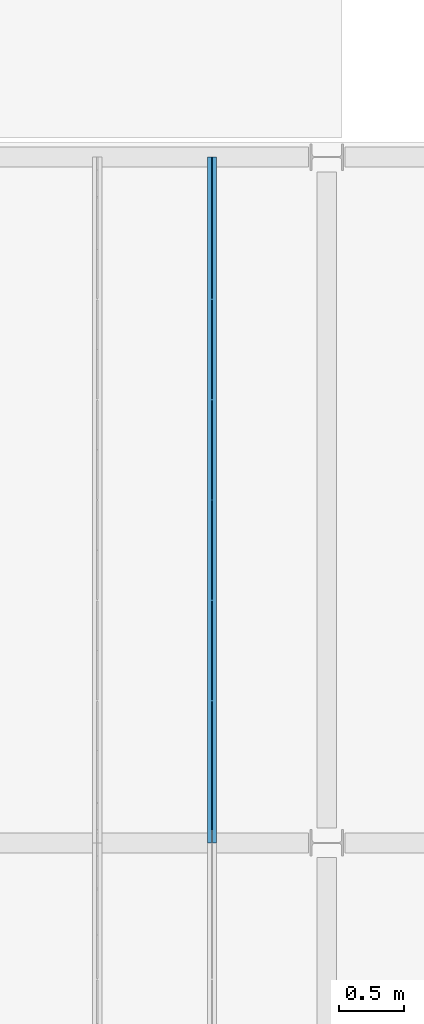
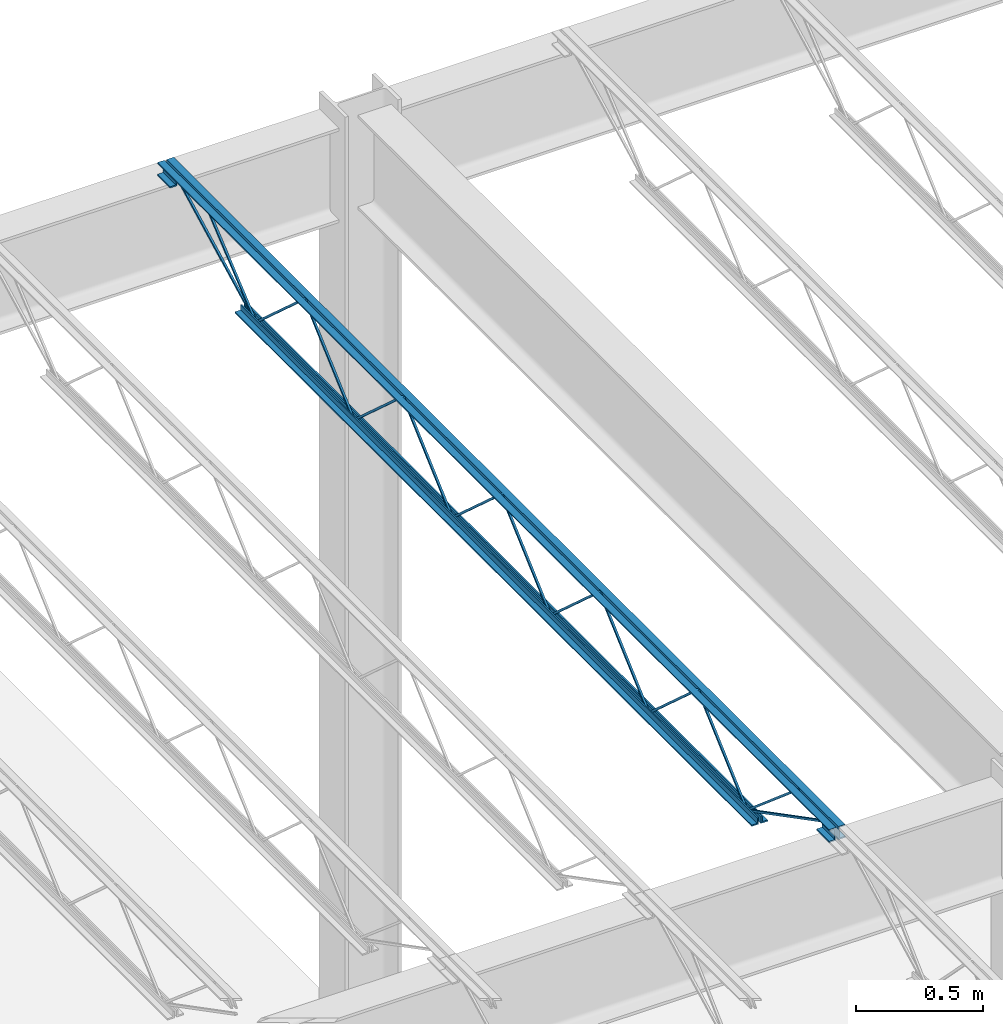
# One storey, part 94 of 119: 1 beam.
"""IFC2X3 building model written with IfcOpenShell, lengths in metres."""

from ifc_helpers import new_model, entity, si_unit, converted_unit, frame, origin, place, context, project, spatial, face_set, surface_model, element, save


model = new_model("IFC2X3")

# Units and contexts
model_context = context("Model", 3, precision=1e-09, world=origin())
plan_context = context("Plan", 3, precision=1e-09, world=origin())
ifc_project = project(units=[si_unit("LENGTHUNIT", "METRE"), si_unit("AREAUNIT", "SQUARE_METRE"), si_unit("VOLUMEUNIT", "CUBIC_METRE"), converted_unit("PLANEANGLEUNIT", "DEGREE", entity("IfcRatioMeasure", 0.01745329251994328), si_unit("PLANEANGLEUNIT", "RADIAN"), dimensions=[0, 0, 0, 0, 0, 0, 0]), si_unit("TIMEUNIT", "SECOND")], contexts=[model_context, plan_context])

# Site, building, storey
site_placement = place(None, origin())
site = spatial("IfcSite", under=ifc_project, at=site_placement, Name="Default", CompositionType="ELEMENT")
building_placement = place(site_placement, origin())
building = spatial("IfcBuilding", under=site, at=building_placement, CompositionType="ELEMENT")
storey_placement = place(building_placement, frame((0.0, 0.0, 4.570000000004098)))
storey = spatial("IfcBuildingStorey", under=building, at=storey_placement, Name="Second Floor", CompositionType="ELEMENT", Elevation=4.570000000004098)

# Beam
beam_placement = place(storey_placement, frame((-27.3655, 44.78049999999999, 4.323999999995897), z_axis=(0.0, 0.0, 1.0), x_axis=(-1.0, 0.0, 0.0)))
element("IfcBeam", 1, at=beam_placement, inside=storey, Name="M_K-Series Bar Joist-Rod Web:14K1:14K1", ObjectType="M_K-Series Bar Joist-Rod Web:14K1", context=model_context, shape_type="SurfaceModel", body=[
    surface_model("IfcFaceBasedSurfaceModel", [(-0.0320000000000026, -2.266000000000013, 0.01110000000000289), (-0.04150000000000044, -2.266000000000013, 0.01110000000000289), (-0.04150000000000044, -2.266000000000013, 0.001600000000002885), (-0.0320000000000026, -2.266000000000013, 0.001600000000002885), (-0.04150000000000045, -2.264645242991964, 0.01110000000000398), (-0.0320000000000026, -2.264645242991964, 0.01110000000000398), (-0.04150000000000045, -2.26100475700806, 0.001600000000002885), (-0.04150000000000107, -1.878854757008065, 0.3449000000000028), (-0.04150000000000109, -1.876145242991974, 0.3449000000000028), (-0.0415000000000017, -1.493995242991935, 0.001600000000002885), (-0.04150000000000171, -1.489000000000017, 0.001600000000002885), (-0.04150000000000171, -1.489000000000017, 0.01110000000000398), (-0.04150000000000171, -1.490354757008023, 0.01110000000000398), (-0.04150000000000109, -1.872504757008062, 0.3544000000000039), (-0.04150000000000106, -1.882495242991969, 0.3544000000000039), (-0.03199999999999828, -2.26100475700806, 0.001600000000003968), (-0.03200000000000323, -1.878854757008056, 0.3449000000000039), (-0.03200000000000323, -1.876145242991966, 0.3449000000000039), (-0.03200000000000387, -1.493995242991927, 0.001600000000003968), (-0.03200000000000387, -1.489000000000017, 0.001600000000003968), (-0.03200000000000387, -1.489000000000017, 0.01110000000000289), (-0.03200000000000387, -1.490354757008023, 0.01110000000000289), (-0.03200000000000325, -1.872504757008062, 0.3544000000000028), (-0.03200000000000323, -1.882495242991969, 0.3544000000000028), (-0.03200000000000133, -3.04300000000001, 0.01110000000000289), (-0.04149999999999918, -3.04300000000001, 0.01110000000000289), (-0.04149999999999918, -3.04300000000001, 0.001600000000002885), (-0.03200000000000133, -3.04300000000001, 0.001600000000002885), (-0.04149999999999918, -3.041645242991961, 0.01110000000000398), (-0.03200000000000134, -3.041645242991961, 0.01110000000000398), (-0.04149999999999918, -3.038004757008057, 0.001600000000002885), (-0.0414999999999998, -2.655854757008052, 0.3449000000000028), (-0.04149999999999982, -2.653145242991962, 0.3449000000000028), (-0.04150000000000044, -2.270995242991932, 0.001600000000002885), (-0.04150000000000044, -2.266000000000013, 0.01110000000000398), (-0.04150000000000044, -2.26735475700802, 0.01110000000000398), (-0.04149999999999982, -2.649504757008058, 0.3544000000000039), (-0.0414999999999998, -2.659495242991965, 0.3544000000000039), (-0.03199999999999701, -3.038004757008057, 0.001600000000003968), (-0.03200000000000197, -2.655854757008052, 0.3449000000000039), (-0.03200000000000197, -2.653145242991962, 0.3449000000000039), (-0.0320000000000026, -2.270995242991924, 0.001600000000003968), (-0.0320000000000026, -2.266000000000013, 0.001600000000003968), (-0.0320000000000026, -2.26735475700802, 0.01110000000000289), (-0.03200000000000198, -2.649504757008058, 0.3544000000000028), (-0.03200000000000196, -2.659495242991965, 0.3544000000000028), (-0.03200000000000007, -3.820000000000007, 0.01110000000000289), (-0.04149999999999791, -3.820000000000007, 0.01110000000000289), (-0.04149999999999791, -3.820000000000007, 0.001600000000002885), (-0.03200000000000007, -3.820000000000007, 0.001600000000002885), (-0.04149999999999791, -3.818645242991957, 0.01110000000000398), (-0.03200000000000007, -3.818645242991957, 0.01110000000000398), (-0.04149999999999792, -3.815004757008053, 0.001600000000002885), (-0.04149999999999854, -3.432854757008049, 0.3449000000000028), (-0.04149999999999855, -3.430145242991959, 0.3449000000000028), (-0.04149999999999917, -3.04799524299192, 0.001600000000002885), (-0.04149999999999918, -3.043000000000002, 0.001600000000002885), (-0.04149999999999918, -3.04300000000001, 0.01110000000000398), (-0.04149999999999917, -3.044354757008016, 0.01110000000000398), (-0.04149999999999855, -3.426504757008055, 0.3544000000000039), (-0.04149999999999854, -3.436495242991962, 0.3544000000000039), (-0.03199999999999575, -3.815004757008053, 0.001600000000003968), (-0.0320000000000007, -3.432854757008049, 0.3449000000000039), (-0.0320000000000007, -3.430145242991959, 0.3449000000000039), (-0.03200000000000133, -3.04799524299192, 0.001600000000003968), (-0.03200000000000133, -3.04300000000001, 0.001600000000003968), (-0.03200000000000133, -3.043000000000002, 0.01110000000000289), (-0.03200000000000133, -3.044354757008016, 0.01110000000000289), (-0.03200000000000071, -3.426504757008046, 0.3544000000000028), (-0.0320000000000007, -3.436495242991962, 0.3544000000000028), (-0.0320000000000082, -1.489000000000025, 0.01109999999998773), (-0.04150000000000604, -1.489000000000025, 0.01109999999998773), (-0.04150000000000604, -1.489000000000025, 0.001599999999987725), (-0.0320000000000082, -1.489000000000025, 0.001599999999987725), (-0.04150000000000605, -1.487645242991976, 0.01109999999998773), (-0.0320000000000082, -1.487645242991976, 0.01109999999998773), (-0.04150000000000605, -1.484004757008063, 0.001599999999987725), (-0.04150000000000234, -1.101854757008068, 0.3448999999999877), (-0.04150000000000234, -1.099145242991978, 0.3448999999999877), (-0.04150000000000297, -0.7169952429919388, 0.001599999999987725), (-0.04150000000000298, -0.7120000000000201, 0.001599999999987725), (-0.04150000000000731, -0.7120000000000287, 0.01109999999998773), (-0.04150000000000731, -0.7133547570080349, 0.01109999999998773), (-0.04150000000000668, -1.095504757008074, 0.3543999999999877), (-0.04150000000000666, -1.10549524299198, 0.3543999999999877), (-0.03200000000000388, -1.484004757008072, 0.001599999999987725), (-0.03200000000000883, -1.101854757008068, 0.3448999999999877), (-0.03200000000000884, -1.099145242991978, 0.3448999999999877), (-0.03200000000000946, -0.7169952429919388, 0.001599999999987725), (-0.03200000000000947, -0.7120000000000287, 0.001599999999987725), (-0.03200000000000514, -0.7120000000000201, 0.01109999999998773), (-0.03200000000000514, -0.7133547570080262, 0.01109999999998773), (-0.03200000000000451, -1.095504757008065, 0.3543999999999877), (-0.0320000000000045, -1.10549524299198, 0.3543999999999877), (-0.03200000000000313, -4.597000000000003, 0.01110000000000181), (-0.04150000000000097, -4.597000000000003, 0.01110000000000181), (-0.04150000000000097, -4.597000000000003, 0.001600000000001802), (-0.03200000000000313, -4.597000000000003, 0.001600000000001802), (-0.04150000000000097, -4.595645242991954, 0.01110000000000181), (-0.03200000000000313, -4.595645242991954, 0.01110000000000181), (-0.04150000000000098, -4.592004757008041, 0.001600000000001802), (-0.04150000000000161, -4.209854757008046, 0.3449000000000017), (-0.04150000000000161, -4.207145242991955, 0.3449000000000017), (-0.0414999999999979, -3.824995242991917, 0.001600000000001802), (-0.04149999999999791, -3.819999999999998, 0.001600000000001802), (-0.04150000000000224, -3.820000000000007, 0.01110000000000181), (-0.04150000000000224, -3.821354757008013, 0.01110000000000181), (-0.04150000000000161, -4.203504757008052, 0.3544000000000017), (-0.0415000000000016, -4.213495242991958, 0.3544000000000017), (-0.03199999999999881, -4.592004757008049, 0.001600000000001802), (-0.03200000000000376, -4.209854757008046, 0.3449000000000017), (-0.03200000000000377, -4.207145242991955, 0.3449000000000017), (-0.03200000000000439, -3.824995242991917, 0.001600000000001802), (-0.0320000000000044, -3.820000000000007, 0.001600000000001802), (-0.03200000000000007, -3.819999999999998, 0.01110000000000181), (-0.03200000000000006, -3.821354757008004, 0.01110000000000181), (-0.03200000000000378, -4.203504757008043, 0.3544000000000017), (-0.03200000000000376, -4.21349524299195, 0.3544000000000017), (-0.0414999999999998, 0.0, 0.3559999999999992), (-0.07350000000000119, 0.0, 0.3559999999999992), (-0.07350000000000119, 0.0, 0.3494999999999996), (-0.04799999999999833, 0.0, 0.3494999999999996), (-0.04799999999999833, 0.0, 0.3239999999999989), (-0.0414999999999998, 0.0, 0.3239999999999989), (-0.03200000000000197, 0.0, 0.3559999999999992), (-0.03200000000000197, 0.0, 0.3239999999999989), (-0.02549999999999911, 0.0, 0.3239999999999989), (-0.02549999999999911, 0.0, 0.3494999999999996), (0.0, 0.0, 0.3494999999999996), (0.0, 0.0, 0.3559999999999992), (-0.04149999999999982, -5.309000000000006, 0.3559999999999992), (-0.0735000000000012, -5.309000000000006, 0.3559999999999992), (-0.0735000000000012, -5.309000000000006, 0.3494999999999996), (-0.04799999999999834, -5.309000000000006, 0.3494999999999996), (-0.04799999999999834, -5.309000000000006, 0.3239999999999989), (-0.04149999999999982, -5.309000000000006, 0.3239999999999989), (-0.03200000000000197, -5.309000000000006, 0.3559999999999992), (-0.03200000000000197, -5.309000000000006, 0.3239999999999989), (-0.02549999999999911, -5.309000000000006, 0.3239999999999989), (-0.02549999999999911, -5.309000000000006, 0.3494999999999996), (0.0, -5.309000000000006, 0.3494999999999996), (0.0, -5.309000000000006, 0.3559999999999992), (-0.03200000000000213, -5.20900000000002, 0.2924999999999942), (0.0, -5.20900000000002, 0.2924999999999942), (0.0, -5.20900000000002, 0.2989999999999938), (-0.02550000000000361, -5.20900000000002, 0.2989999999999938), (-0.02550000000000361, -5.20900000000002, 0.3239999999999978), (-0.03200000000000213, -5.20900000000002, 0.3239999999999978), (-0.07350000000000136, -5.20900000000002, 0.2924999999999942), (-0.04149999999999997, -5.20900000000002, 0.2924999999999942), (-0.04149999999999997, -5.20900000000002, 0.3239999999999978), (-0.04800000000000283, -5.20900000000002, 0.3239999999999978), (-0.04800000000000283, -5.20900000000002, 0.2989999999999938), (-0.07350000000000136, -5.20900000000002, 0.2989999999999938), (-0.03200000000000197, -5.309000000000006, 0.2924999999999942), (0.0, -5.309000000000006, 0.2924999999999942), (0.0, -5.309000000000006, 0.2989999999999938), (-0.02550000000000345, -5.309000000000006, 0.2989999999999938), (-0.02550000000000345, -5.309000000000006, 0.3239999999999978), (-0.03200000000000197, -5.309000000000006, 0.3239999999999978), (-0.0735000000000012, -5.309000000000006, 0.2924999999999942), (-0.04149999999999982, -5.309000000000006, 0.2924999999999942), (-0.04149999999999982, -5.309000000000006, 0.3239999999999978), (-0.04800000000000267, -5.309000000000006, 0.3239999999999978), (-0.04800000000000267, -5.309000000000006, 0.2989999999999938), (-0.0735000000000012, -5.309000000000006, 0.2989999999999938), (-0.0414999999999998, 0.0, 0.2924999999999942), (-0.0414999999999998, 0.0, 0.3239999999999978), (-0.04800000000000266, 0.0, 0.3239999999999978), (-0.04800000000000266, 0.0, 0.2989999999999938), (-0.07350000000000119, 0.0, 0.2989999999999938), (-0.07350000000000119, 0.0, 0.2924999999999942), (-0.03200000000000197, 0.0, 0.2924999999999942), (0.0, 0.0, 0.2924999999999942), (0.0, 0.0, 0.2989999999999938), (-0.02550000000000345, 0.0, 0.2989999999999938), (-0.02550000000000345, 0.0, 0.3239999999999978), (-0.03200000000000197, 0.0, 0.3239999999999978), (-0.04149999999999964, -0.1000000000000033, 0.2924999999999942), (-0.04149999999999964, -0.1000000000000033, 0.3239999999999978), (-0.0480000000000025, -0.1000000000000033, 0.3239999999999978), (-0.0480000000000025, -0.1000000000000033, 0.2989999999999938), (-0.07350000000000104, -0.1000000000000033, 0.2989999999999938), (-0.07350000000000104, -0.1000000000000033, 0.2924999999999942), (-0.03200000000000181, -0.1000000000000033, 0.2924999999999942), (0.0, -0.1000000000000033, 0.2924999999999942), (0.0, -0.1000000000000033, 0.2989999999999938), (-0.02550000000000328, -0.1000000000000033, 0.2989999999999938), (-0.02550000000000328, -0.1000000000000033, 0.3239999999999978), (-0.03200000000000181, -0.1000000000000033, 0.3239999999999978), (-0.04149999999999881, -0.6119999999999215, 0.0), (-0.04149999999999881, -0.6119999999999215, 0.03199999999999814), (-0.04799999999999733, -0.6119999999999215, 0.03199999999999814), (-0.04799999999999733, -0.6119999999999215, 0.006499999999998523), (-0.07350000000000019, -0.6119999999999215, 0.006499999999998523), (-0.07350000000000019, -0.6119999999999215, 0.0), (-0.03200000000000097, -0.6119999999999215, 0.0), (0.0, -0.6119999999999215, 0.0), (0.0, -0.6119999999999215, 0.006499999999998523), (-0.02549999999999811, -0.6119999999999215, 0.006499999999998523), (-0.02549999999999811, -0.6119999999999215, 0.03199999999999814), (-0.03200000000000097, -0.6119999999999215, 0.03199999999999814), (-0.04150000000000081, -4.696999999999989, 0.0), (-0.04150000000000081, -4.696999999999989, 0.03199999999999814), (-0.04799999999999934, -4.696999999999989, 0.03199999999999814), (-0.04799999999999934, -4.696999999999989, 0.006499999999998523), (-0.0735000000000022, -4.696999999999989, 0.006499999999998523), (-0.0735000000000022, -4.696999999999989, 0.0), (-0.03200000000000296, -4.696999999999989, 0.0), (0.0, -4.696999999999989, 0.0), (0.0, -4.696999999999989, 0.006499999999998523), (-0.02550000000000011, -4.696999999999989, 0.006499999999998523), (-0.02550000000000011, -4.696999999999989, 0.03199999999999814), (-0.03200000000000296, -4.696999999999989, 0.03199999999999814), (-0.03200000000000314, -4.594811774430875, 0.01056594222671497), (-0.04150000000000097, -4.594811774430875, 0.01056594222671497), (-0.04150000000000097, -4.599188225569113, 0.00213405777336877), (-0.03200000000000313, -4.599188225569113, 0.00213405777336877), (-0.03200000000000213, -5.207840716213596, 0.3287499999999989), (-0.03200000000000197, -5.308999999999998, 0.3287499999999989), (-0.03200000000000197, -5.308999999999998, 0.3192499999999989), (-0.03200000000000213, -5.210159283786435, 0.3192499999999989), (-0.0415000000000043, -5.210159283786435, 0.3192499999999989), (-0.04149999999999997, -5.207840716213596, 0.3287499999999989), (-0.04149999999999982, -5.308999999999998, 0.3287499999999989), (-0.04149999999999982, -5.309000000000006, 0.3192499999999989), (-0.03200000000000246, -5.005457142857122, 0.3417000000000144), (-0.0415000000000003, -5.005457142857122, 0.3417000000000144), (-0.0415000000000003, -5.005457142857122, 0.3322000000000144), (-0.03200000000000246, -5.005457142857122, 0.3322000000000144), (-0.04150000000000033, -4.991034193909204, 0.3417000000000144), (-0.03200000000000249, -4.991034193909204, 0.3417000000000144), (-0.04150000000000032, -4.994480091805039, 0.3322000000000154), (-0.04150000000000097, -4.600045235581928, 0.002704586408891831), (-0.04150000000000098, -4.593954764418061, 0.009995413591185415), (-0.03199999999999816, -4.994480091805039, 0.3322000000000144), (-0.03200000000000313, -4.600045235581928, 0.002704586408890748), (-0.03200000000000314, -4.593954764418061, 0.009995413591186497), (-0.03200000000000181, -0.09781177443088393, 0.3197840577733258), (-0.03200000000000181, -0.1021882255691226, 0.328215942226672), (-0.04149999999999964, -0.1021882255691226, 0.328215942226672), (-0.04149999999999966, -0.09781177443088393, 0.3197840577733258), (-0.03200000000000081, -0.7098117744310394, 0.002134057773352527), (-0.0320000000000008, -0.714188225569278, 0.01056594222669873), (-0.04149999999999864, -0.714188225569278, 0.01056594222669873), (-0.04149999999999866, -0.7098117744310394, 0.002134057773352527), (-0.03200000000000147, -0.3059055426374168, 0.3460340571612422), (-0.03200000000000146, -0.3120658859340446, 0.35326594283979), (-0.04149999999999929, -0.3120658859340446, 0.3532659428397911), (-0.04149999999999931, -0.3059055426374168, 0.3460340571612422), (-0.03200000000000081, -0.7089198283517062, 0.002734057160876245), (-0.0320000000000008, -0.7150801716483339, 0.00996594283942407), (-0.04149999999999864, -0.7150801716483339, 0.00996594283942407), (-0.04149999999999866, -0.7089198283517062, 0.002734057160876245)], [face_set([[[0, 1, 2, 3]], [[1, 4, 5, 0]], [[2, 6, 7, 8, 9, 10, 11, 12, 13, 14, 4, 1]], [[3, 2, 6, 15]], [[0, 3, 15, 16, 17, 18, 19, 20, 21, 22, 23, 5]], [[4, 5, 23, 14]], [[15, 16, 7, 6]], [[14, 13, 22, 23]], [[16, 7, 8, 17]], [[13, 12, 21, 22]], [[17, 8, 9, 18]], [[20, 11, 10, 19]], [[12, 11, 20, 21]], [[18, 9, 10, 19]]]), face_set([[[24, 25, 26, 27]], [[25, 28, 29, 24]], [[26, 30, 31, 32, 33, 2, 34, 35, 36, 37, 28, 25]], [[27, 26, 30, 38]], [[24, 27, 38, 39, 40, 41, 42, 0, 43, 44, 45, 29]], [[28, 29, 45, 37]], [[38, 39, 31, 30]], [[37, 36, 44, 45]], [[39, 31, 32, 40]], [[36, 35, 43, 44]], [[40, 32, 33, 41]], [[0, 34, 2, 42]], [[35, 34, 0, 43]], [[41, 33, 2, 42]]]), face_set([[[46, 47, 48, 49]], [[47, 50, 51, 46]], [[48, 52, 53, 54, 55, 56, 57, 58, 59, 60, 50, 47]], [[49, 48, 52, 61]], [[46, 49, 61, 62, 63, 64, 65, 66, 67, 68, 69, 51]], [[50, 51, 69, 60]], [[61, 62, 53, 52]], [[60, 59, 68, 69]], [[62, 53, 54, 63]], [[59, 58, 67, 68]], [[63, 54, 55, 64]], [[66, 57, 56, 65]], [[58, 57, 66, 67]], [[64, 55, 56, 65]]]), face_set([[[70, 71, 72, 73]], [[71, 74, 75, 70]], [[72, 76, 77, 78, 79, 80, 81, 82, 83, 84, 74, 71]], [[73, 72, 76, 85]], [[70, 73, 85, 86, 87, 88, 89, 90, 91, 92, 93, 75]], [[74, 75, 93, 84]], [[85, 86, 77, 76]], [[84, 83, 92, 93]], [[86, 77, 78, 87]], [[83, 82, 91, 92]], [[87, 78, 79, 88]], [[90, 81, 80, 89]], [[82, 81, 90, 91]], [[88, 79, 80, 89]]]), face_set([[[94, 95, 96, 97]], [[95, 98, 99, 94]], [[96, 100, 101, 102, 103, 104, 105, 106, 107, 108, 98, 95]], [[97, 96, 100, 109]], [[94, 97, 109, 110, 111, 112, 113, 114, 115, 116, 117, 99]], [[98, 99, 117, 108]], [[109, 110, 101, 100]], [[108, 107, 116, 117]], [[110, 101, 102, 111]], [[107, 106, 115, 116]], [[111, 102, 103, 112]], [[114, 105, 104, 113]], [[106, 105, 114, 115]], [[112, 103, 104, 113]]]), face_set([[[118, 119, 120, 121, 122, 123]], [[124, 125, 126, 127, 128, 129]], [[130, 131, 132, 133, 134, 135]], [[136, 137, 138, 139, 140, 141]], [[123, 118, 130, 135]], [[122, 123, 135, 134]], [[121, 133, 134, 122]], [[120, 121, 133, 132]], [[119, 131, 132, 120]], [[118, 130, 131, 119]], [[129, 141, 136, 124]], [[128, 129, 141, 140]], [[127, 128, 140, 139]], [[126, 127, 139, 138]], [[125, 126, 138, 137]], [[124, 136, 137, 125]]]), face_set([[[142, 143, 144, 145, 146, 147]], [[148, 149, 150, 151, 152, 153]], [[154, 155, 156, 157, 158, 159]], [[160, 161, 162, 163, 164, 165]], [[147, 159, 154, 142]], [[146, 158, 159, 147]], [[145, 146, 158, 157]], [[144, 156, 157, 145]], [[143, 144, 156, 155]], [[142, 143, 155, 154]], [[153, 165, 160, 148]], [[152, 164, 165, 153]], [[151, 163, 164, 152]], [[150, 162, 163, 151]], [[149, 150, 162, 161]], [[148, 149, 161, 160]]]), face_set([[[166, 167, 168, 169, 170, 171]], [[172, 173, 174, 175, 176, 177]], [[178, 179, 180, 181, 182, 183]], [[184, 185, 186, 187, 188, 189]], [[171, 166, 178, 183]], [[170, 182, 183, 171]], [[169, 181, 182, 170]], [[168, 180, 181, 169]], [[167, 179, 180, 168]], [[166, 167, 179, 178]], [[177, 189, 184, 172]], [[176, 188, 189, 177]], [[175, 176, 188, 187]], [[174, 186, 187, 175]], [[173, 174, 186, 185]], [[172, 173, 185, 184]]]), face_set([[[190, 191, 192, 193, 194, 195]], [[196, 197, 198, 199, 200, 201]], [[202, 203, 204, 205, 206, 207]], [[208, 209, 210, 211, 212, 213]], [[195, 190, 202, 207]], [[194, 206, 207, 195]], [[193, 205, 206, 194]], [[192, 204, 205, 193]], [[191, 203, 204, 192]], [[190, 191, 203, 202]], [[201, 213, 208, 196]], [[200, 212, 213, 201]], [[199, 200, 212, 211]], [[198, 210, 211, 199]], [[197, 198, 210, 209]], [[196, 197, 209, 208]]]), face_set([[[214, 215, 216, 217]], [[217, 214, 218, 219, 220, 221]], [[216, 217, 221, 222]], [[215, 223, 224, 225, 222, 216]], [[214, 218, 223, 215]], [[219, 224, 225, 220]], [[222, 221, 220, 225]], [[218, 219, 224, 223]]]), face_set([[[226, 227, 228, 229]], [[227, 230, 231, 226]], [[228, 232, 233, 234, 230, 227]], [[229, 228, 232, 235]], [[226, 229, 235, 236, 237, 231]], [[237, 234, 233, 236]], [[230, 234, 237, 231]], [[235, 232, 233, 236]]]), face_set([[[238, 239, 240, 241]], [[242, 243, 244, 245]], [[241, 245, 242, 238]], [[240, 244, 245, 241]], [[239, 240, 244, 243]], [[238, 239, 243, 242]]]), face_set([[[246, 247, 248, 249]], [[250, 251, 252, 253]], [[249, 253, 250, 246]], [[248, 252, 253, 249]], [[247, 248, 252, 251]], [[246, 247, 251, 250]]])]),
])

save(model, "model.ifc")
